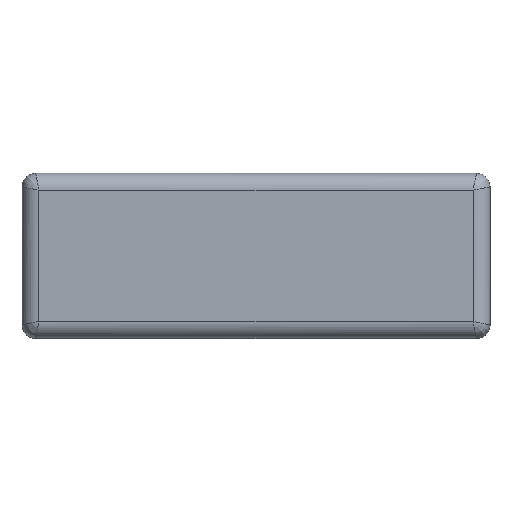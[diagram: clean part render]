
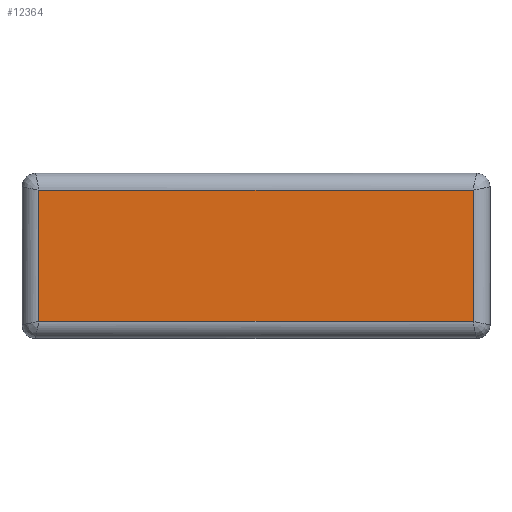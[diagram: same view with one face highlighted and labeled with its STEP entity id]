
A CAD part, top view. The second image highlights one B-rep face of the part: STEP entity #12364.
In plain terms, the highlighted planar face has unit normal (0, 0, 1).
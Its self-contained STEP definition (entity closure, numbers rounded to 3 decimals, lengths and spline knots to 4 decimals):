
#1849=FACE_OUTER_BOUND('',#2588,.T.);
#2588=EDGE_LOOP('',(#11392,#11393,#11394,#11395));
#3837=LINE('',#37880,#4721);
#3838=LINE('',#37882,#4722);
#3839=LINE('',#37884,#4723);
#3840=LINE('',#37886,#4724);
#4721=VECTOR('',#16173,0.3937);
#4722=VECTOR('',#16176,0.3937);
#4723=VECTOR('',#16179,0.3937);
#4724=VECTOR('',#16182,0.3937);
#5910=VERTEX_POINT('',#37758);
#5911=VERTEX_POINT('',#37797);
#5912=VERTEX_POINT('',#37836);
#5913=VERTEX_POINT('',#37875);
#7740=EDGE_CURVE('',#5913,#5910,#3837,.T.);
#7741=EDGE_CURVE('',#5912,#5913,#3838,.T.);
#7742=EDGE_CURVE('',#5911,#5912,#3839,.T.);
#7743=EDGE_CURVE('',#5910,#5911,#3840,.T.);
#11392=ORIENTED_EDGE('',*,*,#7740,.F.);
#11393=ORIENTED_EDGE('',*,*,#7741,.F.);
#11394=ORIENTED_EDGE('',*,*,#7742,.F.);
#11395=ORIENTED_EDGE('',*,*,#7743,.F.);
#11659=PLANE('',#13498);
#12364=ADVANCED_FACE('',(#1849),#11659,.T.);
#13498=AXIS2_PLACEMENT_3D('',#37889,#16187,#16188);
#16173=DIRECTION('',(-1.,0.,0.));
#16176=DIRECTION('',(0.,-1.,0.));
#16179=DIRECTION('',(1.,0.,0.));
#16182=DIRECTION('',(0.,1.,0.));
#16187=DIRECTION('center_axis',(0.,0.,1.));
#16188=DIRECTION('ref_axis',(1.,0.,0.));
#37758=CARTESIAN_POINT('',(-1.605,-0.485,1.1811));
#37797=CARTESIAN_POINT('',(-1.605,0.485,1.1811));
#37836=CARTESIAN_POINT('',(1.605,0.485,1.1811));
#37875=CARTESIAN_POINT('',(1.605,-0.485,1.1811));
#37880=CARTESIAN_POINT('',(-0.815,-0.485,1.1811));
#37882=CARTESIAN_POINT('',(1.605,-0.255,1.1811));
#37884=CARTESIAN_POINT('',(0.815,0.485,1.1811));
#37886=CARTESIAN_POINT('',(-1.605,0.255,1.1811));
#37889=CARTESIAN_POINT('Origin',(0.,0.,
1.1811));
